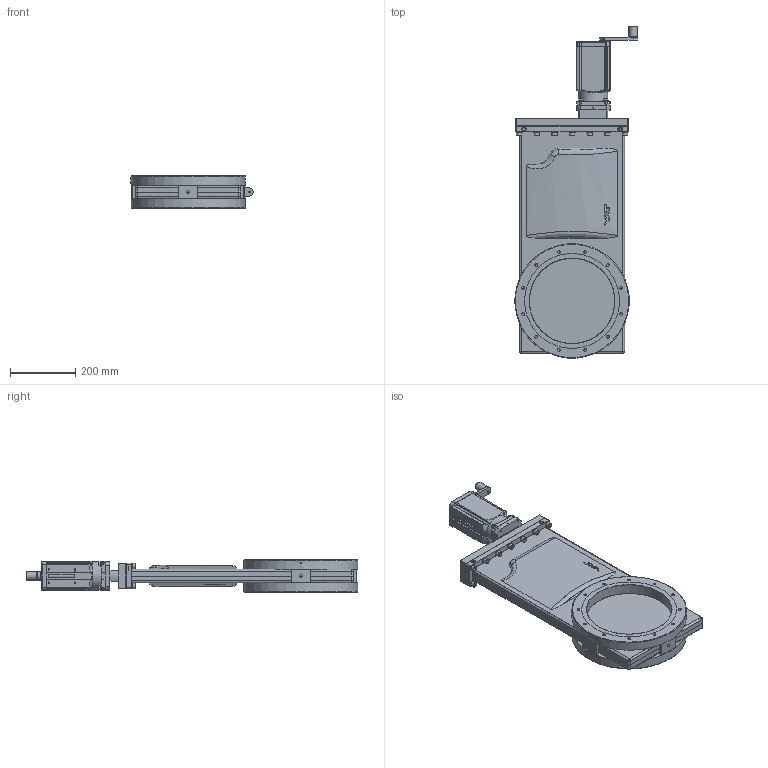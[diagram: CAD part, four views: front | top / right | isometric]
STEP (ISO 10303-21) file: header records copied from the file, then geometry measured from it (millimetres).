
FILE_DESCRIPTION(/* description */ (''),/* implementation_level */ '2;1');
FILE_NAME(/* name */ '1226051500_203.stp',/* time_stamp */ '2023-06-13T08:11:56+02:00',/* author */ (''),/* organization */ (''),/* preprocessor_version */ 'ST-DEVELOPER v18.1',/* originating_system */ 'SIEMENS PLM Software NX 1973',/* authorisation */ '');
FILE_SCHEMA (('AP203_CONFIGURATION_CONTROLLED_3D_DESIGN_OF_MECHANICAL_PARTS_AND_ASSEMBLIES_MIM_LF { 1 0 10303 403 2 1 2}'));
Length unit declared in the file: millimetre
Products named in the file (35): 65664-01.2_35963ID; 209489_1.1; 436171_36037ID; 436171_35932ID; 224810; 79156-01.2; N-6099-458.1; N-6198-006.1; N-6250-110.1; N-5054-012.1; 78965-01.1; 94489-01.1; 94481-01.1; 206692.1; 215426.3_35871ID; 215426.3_35852ID; 77900.1; 74628-01.3; 89473-01.1; 82418-01.1; 224811.1; 79157-01.2; 775041; 77876-01.1; 77858-01.1; 65313-01.1; N-5019-840.1; n-6134-410; 760536; 206694.1; 208553.1; 210260.1; 82682-r1.3; 90208-r1; 497030
Assembly tree (71 placements, depth 5):
  497030
    90208-r1
      82418-01.1
      89473-01.1
      74628-01.3
    n-6134-410  x14
    N-5019-840.1  x14
    65313-01.1
    82682-r1.3
      77900.1  x3
      215426.3_35852ID
      215426.3_35871ID
      210260.1
        436171_35932ID
        436171_36037ID
        209489_1.1
    77858-01.1
    77876-01.1
    775041
    208553.1
      206692.1
      94481-01.1
      94489-01.1
      78965-01.1
      206694.1
        760536
          65664-01.2_35963ID
      N-5054-012.1
      N-6250-110.1
      N-6198-006.1
      N-6099-458.1
      79156-01.2
      224810  x4
    79157-01.2  x4
    224811.1  x4
Bounding box: 374.1 x 1015.33 x 99.75 mm (x, y, z)
Volume: 7299661.1 mm3; surface area: 1746078.9 mm2
Topology: 109 solids, 109 shells, 1383 faces, 3298 edges, 2163 vertices
Faces by surface type: plane 674, cylinder 479, cone 127, torus 48, sphere 22, bspline 17, extrusion 16
Full cylindrical faces by diameter (mm): 2.125 x1, 2.8 x1, 3 x1, 3.3 x4, 3.65 x2, 4 x1, 4.35 x5, 4.5 x2, 4.625 x2, 4.96 x8, 5 x18, 5.97 x1, 5.994 x3, 6 x19, 6.1 x1, 6.15 x1, 6.25 x2, 6.45 x8, 7 x1, 7.1 x1, 8.25 x4, 8.3 x1, 8.36 x14, 8.4 x14, 8.5 x49, 10 x36, 10.15 x4, 10.5 x18, 11 x18, 11.994 x1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
Entity records: 33324 total; most frequent: CARTESIAN_POINT 7611, DIRECTION 4376, ORIENTED_EDGE 3904, EDGE_CURVE 1952, AXIS2_PLACEMENT_3D 1772, VERTEX_POINT 1521, EDGE_LOOP 1487, FACE_BOUND 1036
